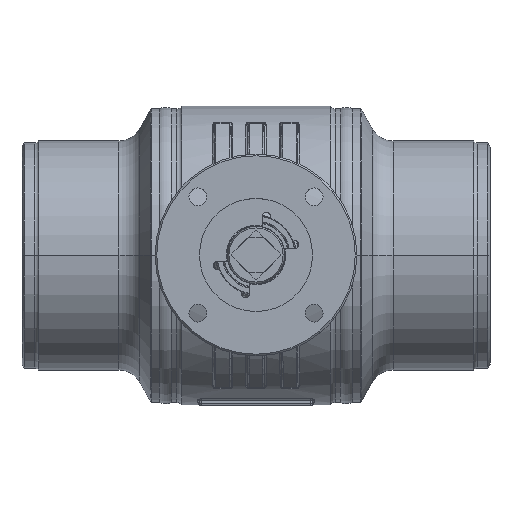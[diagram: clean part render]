
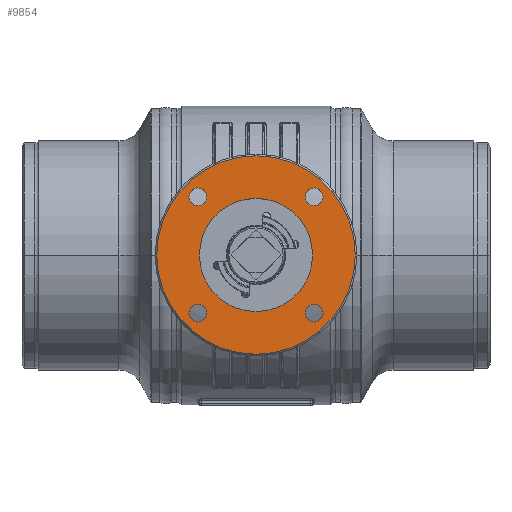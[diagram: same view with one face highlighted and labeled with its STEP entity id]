
A CAD part, top view. The second image highlights one B-rep face of the part: STEP entity #9854.
In plain terms, the highlighted planar face has unit normal (0, 0, 1).
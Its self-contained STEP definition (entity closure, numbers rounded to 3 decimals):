
#1109=CARTESIAN_POINT('',(0.,0.,204.));
#1110=DIRECTION('',(0.,0.,-1.));
#1111=DIRECTION('',(0.,-1.,0.));
#1112=AXIS2_PLACEMENT_3D('',#1109,#1110,#1111);
#1114=CARTESIAN_POINT('',(0.,0.,204.));
#1115=DIRECTION('',(0.,0.,-1.));
#1116=DIRECTION('',(0.,1.,0.));
#1117=AXIS2_PLACEMENT_3D('',#1114,#1115,#1116);
#1119=CARTESIAN_POINT('',(0.,0.,204.));
#1120=DIRECTION('',(0.,0.,-1.));
#1121=DIRECTION('',(0.,1.,0.));
#1122=AXIS2_PLACEMENT_3D('',#1119,#1120,#1121);
#1124=CARTESIAN_POINT('',(0.,0.,204.));
#1125=DIRECTION('',(0.,0.,1.));
#1126=DIRECTION('',(0.,1.,0.));
#1127=AXIS2_PLACEMENT_3D('',#1124,#1125,#1126);
#1129=CARTESIAN_POINT('',(36.062,-36.062,204.));
#1130=DIRECTION('',(0.,0.,-1.));
#1131=DIRECTION('',(0.,1.,0.));
#1132=AXIS2_PLACEMENT_3D('',#1129,#1130,#1131);
#1134=CARTESIAN_POINT('',(36.062,-36.062,204.));
#1135=DIRECTION('',(0.,0.,-1.));
#1136=DIRECTION('',(0.,-1.,0.));
#1137=AXIS2_PLACEMENT_3D('',#1134,#1135,#1136);
#1139=CARTESIAN_POINT('',(-36.062,-36.062,204.));
#1140=DIRECTION('',(0.,0.,-1.));
#1141=DIRECTION('',(0.,1.,0.));
#1142=AXIS2_PLACEMENT_3D('',#1139,#1140,#1141);
#1144=CARTESIAN_POINT('',(-36.062,-36.062,204.));
#1145=DIRECTION('',(0.,0.,-1.));
#1146=DIRECTION('',(0.,-1.,0.));
#1147=AXIS2_PLACEMENT_3D('',#1144,#1145,#1146);
#1149=CARTESIAN_POINT('',(-36.062,36.062,204.));
#1150=DIRECTION('',(0.,0.,-1.));
#1151=DIRECTION('',(0.,1.,0.));
#1152=AXIS2_PLACEMENT_3D('',#1149,#1150,#1151);
#1154=CARTESIAN_POINT('',(-36.062,36.062,204.));
#1155=DIRECTION('',(0.,0.,-1.));
#1156=DIRECTION('',(0.,-1.,0.));
#1157=AXIS2_PLACEMENT_3D('',#1154,#1155,#1156);
#1159=CARTESIAN_POINT('',(36.062,36.062,204.));
#1160=DIRECTION('',(0.,0.,-1.));
#1161=DIRECTION('',(0.,1.,0.));
#1162=AXIS2_PLACEMENT_3D('',#1159,#1160,#1161);
#1164=CARTESIAN_POINT('',(36.062,36.062,204.));
#1165=DIRECTION('',(0.,0.,-1.));
#1166=DIRECTION('',(0.,-1.,0.));
#1167=AXIS2_PLACEMENT_3D('',#1164,#1165,#1166);
#7787=CARTESIAN_POINT('',(0.,35.05,204.));
#7789=VERTEX_POINT('',#7787);
#7791=CARTESIAN_POINT('',(0.,-35.05,204.));
#7793=VERTEX_POINT('',#7791);
#7850=CARTESIAN_POINT('',(36.062,-30.562,204.));
#7851=CARTESIAN_POINT('',(36.062,-41.562,204.));
#7852=VERTEX_POINT('',#7850);
#7853=VERTEX_POINT('',#7851);
#7858=CARTESIAN_POINT('',(-36.062,-30.562,204.));
#7859=CARTESIAN_POINT('',(-36.062,-41.562,204.));
#7860=VERTEX_POINT('',#7858);
#7861=VERTEX_POINT('',#7859);
#7866=CARTESIAN_POINT('',(-36.062,41.562,204.));
#7867=CARTESIAN_POINT('',(-36.062,30.562,204.));
#7868=VERTEX_POINT('',#7866);
#7869=VERTEX_POINT('',#7867);
#7874=CARTESIAN_POINT('',(36.062,41.562,204.));
#7875=CARTESIAN_POINT('',(36.062,30.562,204.));
#7876=VERTEX_POINT('',#7874);
#7877=VERTEX_POINT('',#7875);
#7886=CARTESIAN_POINT('',(0.,-61.5,204.));
#7887=CARTESIAN_POINT('',(0.,61.5,204.));
#7888=VERTEX_POINT('',#7886);
#7889=VERTEX_POINT('',#7887);
#9815=CARTESIAN_POINT('',(0.,0.,204.));
#9816=DIRECTION('',(0.,0.,-1.));
#9817=DIRECTION('',(0.,1.,0.));
#9818=AXIS2_PLACEMENT_3D('',#9815,#9816,#9817);
#9819=PLANE('',#9818);
#9820=ORIENTED_EDGE('',*,*,#9782,.T.);
#9821=ORIENTED_EDGE('',*,*,#9797,.T.);
#9822=EDGE_LOOP('',(#9820,#9821));
#9823=FACE_OUTER_BOUND('',#9822,.F.);
#9825=ORIENTED_EDGE('',*,*,#9824,.F.);
#9827=ORIENTED_EDGE('',*,*,#9826,.T.);
#9828=EDGE_LOOP('',(#9825,#9827));
#9829=FACE_BOUND('',#9828,.F.);
#9831=ORIENTED_EDGE('',*,*,#9830,.F.);
#9833=ORIENTED_EDGE('',*,*,#9832,.F.);
#9834=EDGE_LOOP('',(#9831,#9833));
#9835=FACE_BOUND('',#9834,.F.);
#9837=ORIENTED_EDGE('',*,*,#9836,.F.);
#9839=ORIENTED_EDGE('',*,*,#9838,.F.);
#9840=EDGE_LOOP('',(#9837,#9839));
#9841=FACE_BOUND('',#9840,.F.);
#9843=ORIENTED_EDGE('',*,*,#9842,.F.);
#9845=ORIENTED_EDGE('',*,*,#9844,.F.);
#9846=EDGE_LOOP('',(#9843,#9845));
#9847=FACE_BOUND('',#9846,.F.);
#9849=ORIENTED_EDGE('',*,*,#9848,.F.);
#9851=ORIENTED_EDGE('',*,*,#9850,.F.);
#9852=EDGE_LOOP('',(#9849,#9851));
#9853=FACE_BOUND('',#9852,.F.);
#9854=ADVANCED_FACE('',(#9823,#9829,#9835,#9841,#9847,#9853),#9819,.F.);
#1113=CIRCLE('',#1112,61.5);
#1118=CIRCLE('',#1117,61.5);
#1123=CIRCLE('',#1122,35.05);
#1128=CIRCLE('',#1127,35.05);
#1133=CIRCLE('',#1132,5.5);
#1138=CIRCLE('',#1137,5.5);
#1143=CIRCLE('',#1142,5.5);
#1148=CIRCLE('',#1147,5.5);
#1153=CIRCLE('',#1152,5.5);
#1158=CIRCLE('',#1157,5.5);
#1163=CIRCLE('',#1162,5.5);
#1168=CIRCLE('',#1167,5.5);
#9782=EDGE_CURVE('',#7888,#7889,#1113,.T.);
#9797=EDGE_CURVE('',#7889,#7888,#1118,.T.);
#9824=EDGE_CURVE('',#7789,#7793,#1123,.T.);
#9826=EDGE_CURVE('',#7789,#7793,#1128,.T.);
#9830=EDGE_CURVE('',#7852,#7853,#1133,.T.);
#9832=EDGE_CURVE('',#7853,#7852,#1138,.T.);
#9836=EDGE_CURVE('',#7860,#7861,#1143,.T.);
#9838=EDGE_CURVE('',#7861,#7860,#1148,.T.);
#9842=EDGE_CURVE('',#7868,#7869,#1153,.T.);
#9844=EDGE_CURVE('',#7869,#7868,#1158,.T.);
#9848=EDGE_CURVE('',#7876,#7877,#1163,.T.);
#9850=EDGE_CURVE('',#7877,#7876,#1168,.T.);
